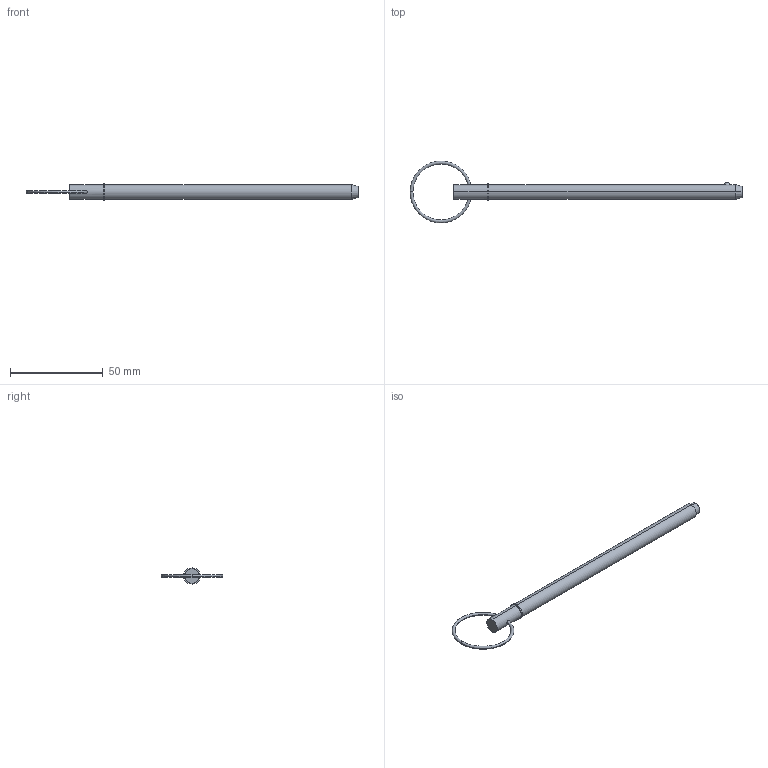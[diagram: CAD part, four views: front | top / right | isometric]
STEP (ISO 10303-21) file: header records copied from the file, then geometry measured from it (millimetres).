
FILE_DESCRIPTION (( 'STEP AP203' ), '1' );
FILE_NAME ('33016.W3150.step', '2024-11-07T11:04:31', ( '' ), ( '' ), 'SwSTEP 2.0', 'SolidWorks 2019', '' );
FILE_SCHEMA (( 'CONFIG_CONTROL_DESIGN' ));
Length unit declared in the file: millimetre
Products named in the file (3): Part1_33016.W3150; 33016.W3150; Part2_33016.W3150
Assembly tree (2 placements, depth 2):
  33016.W3150
    Part1_33016.W3150
    Part2_33016.W3150
Bounding box: 179.12 x 33.34 x 8.73 mm (x, y, z)
Volume: 7848 mm3; surface area: 4517.9 mm2
Topology: 2 solids, 2 shells, 22 faces, 43 edges, 26 vertices
Faces by surface type: torus 8, cylinder 6, plane 4, sphere 2, cone 2
Entity records: 989 total; most frequent: CARTESIAN_POINT 212, DIRECTION 120, ORIENTED_EDGE 86, AXIS2_PLACEMENT_3D 56, EDGE_CURVE 43, CIRCLE 29, EDGE_LOOP 27, PERSON_AND_ORGANIZATION 26
